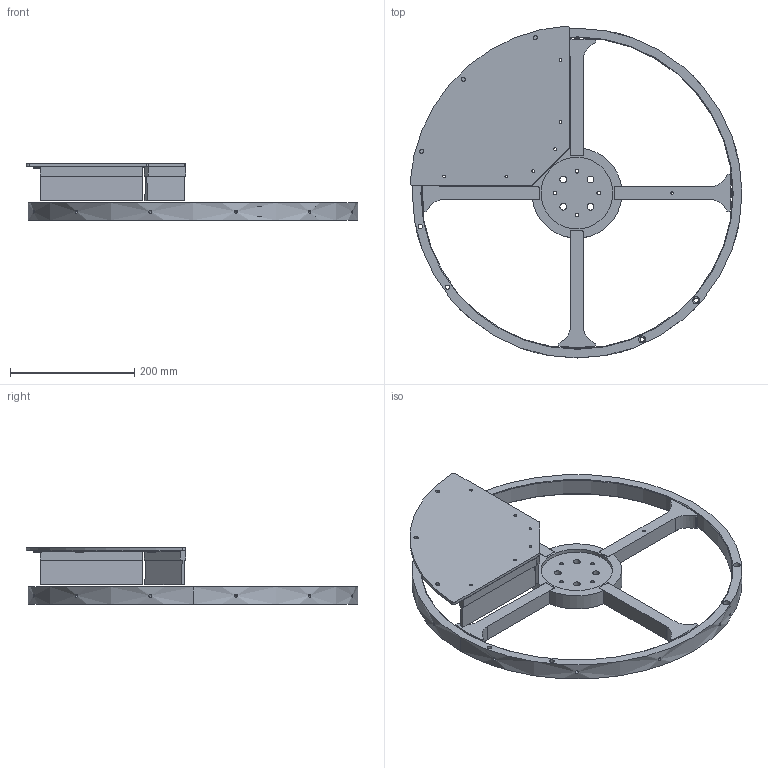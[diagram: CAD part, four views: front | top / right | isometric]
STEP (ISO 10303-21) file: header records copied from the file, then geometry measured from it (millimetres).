
FILE_DESCRIPTION (( 'STEP AP214' ), '1' );
FILE_NAME ('GM000472.STEP', '2021-09-17T08:30:03', ( '' ), ( '' ), 'SwSTEP 2.0', 'SolidWorks 2020', '' );
FILE_SCHEMA (( 'AUTOMOTIVE_DESIGN' ));
Length unit declared in the file: millimetre
Products named in the file (9): PD002368; PD001072; GM000472; CM000064; PD001761; PD002293; SM000065; SM000066; PD001759
Assembly tree (16 placements, depth 2):
  GM000472
    CM000064  x6
    PD001759
    PD001761  x3
    PD001072
    SM000065  x2
    SM000066
    PD002293
    PD002368
Bounding box: 534.46 x 534.46 x 91.2 mm (x, y, z)
Volume: 1783677.8 mm3; surface area: 449793.1 mm2
Topology: 16 solids, 16 shells, 411 faces, 1079 edges, 718 vertices
Faces by surface type: plane 217, cylinder 190, cone 4
Entity records: 10513 total; most frequent: CARTESIAN_POINT 2379, DIRECTION 1655, ORIENTED_EDGE 1558, EDGE_CURVE 779, AXIS2_PLACEMENT_3D 594, VERTEX_POINT 518, VECTOR 467, LINE 467
